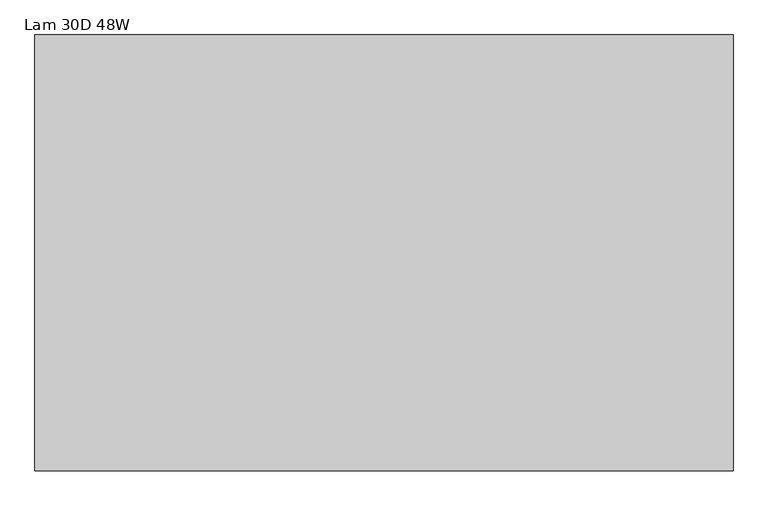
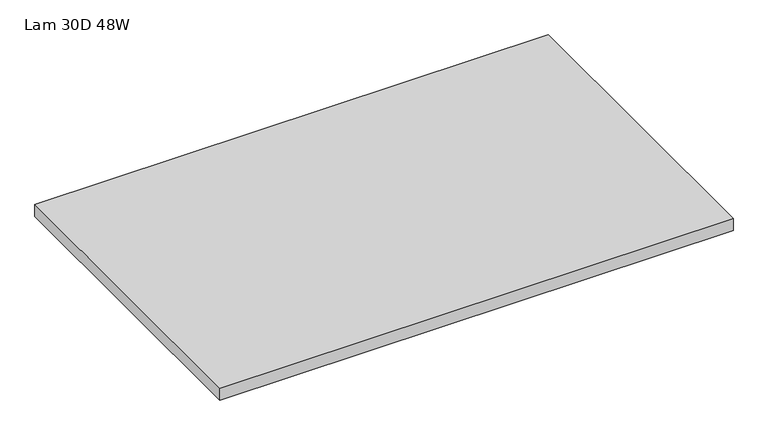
"""IFC4 building model written with IfcOpenShell, lengths in millimetres: furniture geometry, HermanMiller_CoStruc_C4700_RectangularWorkTableSurface : Lam 30D 48W."""

from ifc_helpers import new_model, si_unit, frame, origin, place, context, project, spatial, polyline, outline, extrude, source, transform, mapped, element, save


def lam_30d_48w_67021183(model_context):
    return source(origin(), model_context, "Body", "SweptSolid", [
        extrude(outline(polyline([(1219.1999999, -3.0467299), (1219.1999999, -762.0), (3.1750001, -762.0), (3.1750001, -3.0467299), (1219.1999999, -3.0467299)])), frame((0.0, 0.0, 852.678), z_axis=(0.0, 0.0, 1.0), x_axis=(1.0, 0.0, 0.0)), (0.0, 0.0, 1.0), 29.972),
    ])


if __name__ == "__main__":
    model = new_model("IFC4")
    model_context = context("Model", 3, world=origin())
    ifc_project = project(units=[si_unit("LENGTHUNIT", "METRE", prefix="MILLI")], contexts=[model_context])
    site = spatial("IfcSite", under=ifc_project)
    building = spatial("IfcBuilding", under=site)
    placement = place(None, origin())
    lam_30d_48w_shape = lam_30d_48w_67021183(model_context)
    element("IfcFurniture", 1, ObjectType="HermanMiller_CoStruc_C4700_RectangularWorkTableSurface : Lam 30D 48W", at=placement, inside=building, context=model_context, shape_type="MappedRepresentation", body=[
        mapped(lam_30d_48w_shape, transform((0.0, 0.0, 0.0), x_axis=(1.0, 0.0, 0.0), y_axis=(0.0, 1.0, 0.0), z_axis=(0.0, 0.0, 1.0))),
    ])
    save(model, "model.ifc")
